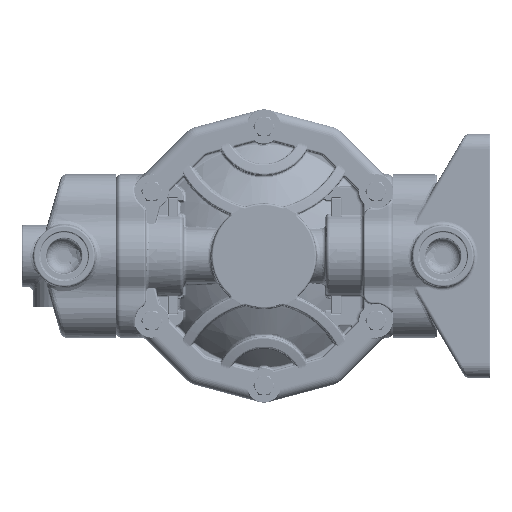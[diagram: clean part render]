
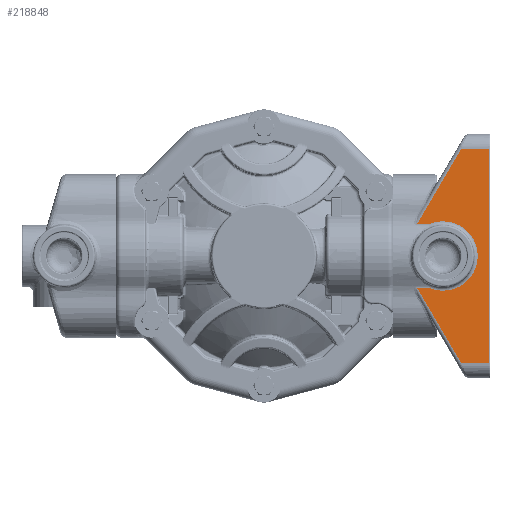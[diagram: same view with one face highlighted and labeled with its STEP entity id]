
A CAD part, left-side view. The second image highlights one B-rep face of the part: STEP entity #218848.
In plain terms, the highlighted planar face has unit normal (-1, 0, 0).
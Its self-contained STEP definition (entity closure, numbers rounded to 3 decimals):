
#4544 = CARTESIAN_POINT ( 'NONE',  ( -65.656, -120., 57. ) ) ;
#14828 = ORIENTED_EDGE ( 'NONE', *, *, #203979, .T. ) ;
#17344 = CARTESIAN_POINT ( 'NONE',  ( -65.656, -105.119, -57. ) ) ;
#26786 = EDGE_CURVE ( 'NONE', #348941, #399674, #341262, .T. ) ;
#35807 = LINE ( 'NONE', #4544, #288383 ) ;
#38952 = ORIENTED_EDGE ( 'NONE', *, *, #80880, .T. ) ;
#46312 = ORIENTED_EDGE ( 'NONE', *, *, #173750, .T. ) ;
#47448 = VERTEX_POINT ( 'NONE', #330186 ) ;
#51843 = CARTESIAN_POINT ( 'NONE',  ( -65.656, -105.119, 57. ) ) ;
#51889 = AXIS2_PLACEMENT_3D ( 'NONE', #195427, #435516, #229986 ) ;
#57245 = DIRECTION ( 'NONE',  ( 0., 0.507, -0.862 ) ) ;
#59372 = CARTESIAN_POINT ( 'NONE',  ( -65.656, -115.5, 57. ) ) ;
#60875 = EDGE_CURVE ( 'NONE', #327837, #259305, #347209, .T. ) ;
#80880 = EDGE_CURVE ( 'NONE', #297897, #251294, #311921, .T. ) ;
#85521 = CARTESIAN_POINT ( 'NONE',  ( -65.656, -120., -57. ) ) ;
#87092 = DIRECTION ( 'NONE',  ( 1., 0., 0. ) ) ;
#89915 = CARTESIAN_POINT ( 'NONE',  ( -65.656, -95.5, 0. ) ) ;
#91771 = CARTESIAN_POINT ( 'NONE',  ( -65.656, -80.724, 15.487 ) ) ;
#93901 = DIRECTION ( 'NONE',  ( 0., 1., 0. ) ) ;
#113527 = CARTESIAN_POINT ( 'NONE',  ( -65.656, -87.902, -16.868 ) ) ;
#122801 = EDGE_LOOP ( 'NONE', ( #46312, #437304, #334834, #221419, #14828, #38952, #327950, #411673, #341658, #143839 ) ) ;
#124379 = DIRECTION ( 'NONE',  ( 0., 0., 1. ) ) ;
#125996 = DIRECTION ( 'NONE',  ( 0., -1., 0. ) ) ;
#128046 = CARTESIAN_POINT ( 'NONE',  ( -65.656, -115.5, -16.868 ) ) ;
#128194 = CARTESIAN_POINT ( 'NONE',  ( -65.656, -95.5, 0. ) ) ;
#132203 = AXIS2_PLACEMENT_3D ( 'NONE', #128194, #368527, #162821 ) ;
#141560 = DIRECTION ( 'NONE',  ( 0., -1., 0. ) ) ;
#142758 = DIRECTION ( 'NONE',  ( 0., 0., 1. ) ) ;
#142901 = VECTOR ( 'NONE', #141560, 1000. ) ;
#143839 = ORIENTED_EDGE ( 'NONE', *, *, #60875, .T. ) ;
#144464 = CARTESIAN_POINT ( 'NONE',  ( -65.656, -81.536, 16.868 ) ) ;
#148072 = CARTESIAN_POINT ( 'NONE',  ( -65.656, -90.093, -31.43 ) ) ;
#153646 = AXIS2_PLACEMENT_3D ( 'NONE', #223804, #87092, #327529 ) ;
#157850 = CARTESIAN_POINT ( 'NONE',  ( -65.656, -81.536, -16.868 ) ) ;
#159130 = CARTESIAN_POINT ( 'NONE',  ( -65.656, -115.5, 16.868 ) ) ;
#162821 = DIRECTION ( 'NONE',  ( 0., 0., 1. ) ) ;
#168166 = CARTESIAN_POINT ( 'NONE',  ( -65.656, -95.5, 18.5 ) ) ;
#173750 = EDGE_CURVE ( 'NONE', #259305, #443381, #325800, .T. ) ;
#175649 = LINE ( 'NONE', #59372, #347631 ) ;
#181690 = LINE ( 'NONE', #159130, #444839 ) ;
#184707 = AXIS2_PLACEMENT_3D ( 'NONE', #89915, #330277, #124379 ) ;
#190497 = FACE_OUTER_BOUND ( 'NONE', #122801, .T. ) ;
#192904 = VERTEX_POINT ( 'NONE', #144464 ) ;
#195427 = CARTESIAN_POINT ( 'NONE',  ( -65.656, -95.5, 0. ) ) ;
#196324 = EDGE_CURVE ( 'NONE', #47448, #361456, #175649, .T. ) ;
#197088 = VECTOR ( 'NONE', #57245, 1000. ) ;
#203979 = EDGE_CURVE ( 'NONE', #192904, #297897, #181690, .T. ) ;
#211730 = VECTOR ( 'NONE', #231750, 1000. ) ;
#217155 = DIRECTION ( 'NONE',  ( 0., -0.507, -0.862 ) ) ;
#218848 = ADVANCED_FACE ( 'NONE', ( #190497 ), #427945, .F. ) ;
#221419 = ORIENTED_EDGE ( 'NONE', *, *, #441932, .T. ) ;
#223804 = CARTESIAN_POINT ( 'NONE',  ( -65.656, -115.5, -16.5 ) ) ;
#229986 = DIRECTION ( 'NONE',  ( 0., 0., 1. ) ) ;
#231750 = DIRECTION ( 'NONE',  ( 0., 1., 0. ) ) ;
#247969 = CARTESIAN_POINT ( 'NONE',  ( -65.656, -95.5, -18.5 ) ) ;
#251294 = VERTEX_POINT ( 'NONE', #168166 ) ;
#255825 = VECTOR ( 'NONE', #217155, 1000. ) ;
#259305 = VERTEX_POINT ( 'NONE', #17344 ) ;
#273372 = EDGE_CURVE ( 'NONE', #443381, #47448, #35807, .T. ) ;
#276569 = EDGE_CURVE ( 'NONE', #399674, #327837, #303183, .T. ) ;
#288383 = VECTOR ( 'NONE', #142758, 1000. ) ;
#297897 = VERTEX_POINT ( 'NONE', #420538 ) ;
#303183 = LINE ( 'NONE', #128046, #211730 ) ;
#310337 = CIRCLE ( 'NONE', #51889, 18.5 ) ;
#311921 = CIRCLE ( 'NONE', #132203, 18.5 ) ;
#325800 = LINE ( 'NONE', #347386, #142901 ) ;
#327529 = DIRECTION ( 'NONE',  ( 0., 0., 1. ) ) ;
#327837 = VERTEX_POINT ( 'NONE', #157850 ) ;
#327950 = ORIENTED_EDGE ( 'NONE', *, *, #328389, .T. ) ;
#328389 = EDGE_CURVE ( 'NONE', #251294, #348941, #310337, .T. ) ;
#330186 = CARTESIAN_POINT ( 'NONE',  ( -65.656, -120., 57. ) ) ;
#330277 = DIRECTION ( 'NONE',  ( 1., 0., 0. ) ) ;
#334834 = ORIENTED_EDGE ( 'NONE', *, *, #196324, .T. ) ;
#341262 = CIRCLE ( 'NONE', #184707, 18.5 ) ;
#341658 = ORIENTED_EDGE ( 'NONE', *, *, #276569, .T. ) ;
#347209 = LINE ( 'NONE', #148072, #255825 ) ;
#347386 = CARTESIAN_POINT ( 'NONE',  ( -65.656, -115.5, -57. ) ) ;
#347631 = VECTOR ( 'NONE', #93901, 1000. ) ;
#348941 = VERTEX_POINT ( 'NONE', #247969 ) ;
#361456 = VERTEX_POINT ( 'NONE', #51843 ) ;
#368527 = DIRECTION ( 'NONE',  ( 1., 0., 0. ) ) ;
#379739 = LINE ( 'NONE', #91771, #197088 ) ;
#399674 = VERTEX_POINT ( 'NONE', #113527 ) ;
#411673 = ORIENTED_EDGE ( 'NONE', *, *, #26786, .T. ) ;
#420538 = CARTESIAN_POINT ( 'NONE',  ( -65.656, -87.902, 16.868 ) ) ;
#427945 = PLANE ( 'NONE',  #153646 ) ;
#435516 = DIRECTION ( 'NONE',  ( 1., 0., 0. ) ) ;
#437304 = ORIENTED_EDGE ( 'NONE', *, *, #273372, .T. ) ;
#441932 = EDGE_CURVE ( 'NONE', #361456, #192904, #379739, .T. ) ;
#443381 = VERTEX_POINT ( 'NONE', #85521 ) ;
#444839 = VECTOR ( 'NONE', #125996, 1000. ) ;
